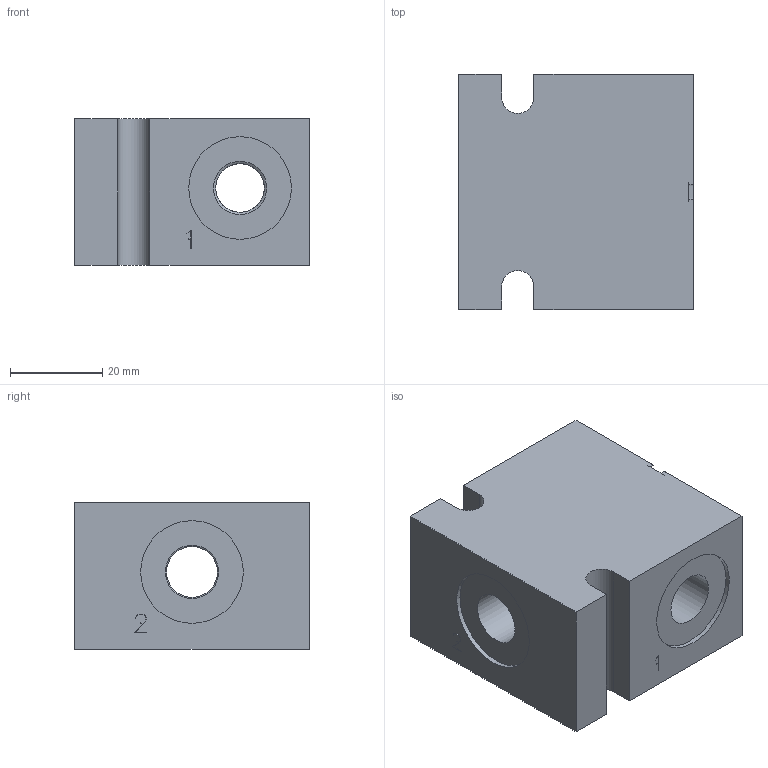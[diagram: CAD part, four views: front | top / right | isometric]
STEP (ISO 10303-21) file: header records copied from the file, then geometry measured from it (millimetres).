
FILE_DESCRIPTION( ( 'Unknown' ), '1' );
FILE_NAME( 'G:/Graphic Design/Graphic Design 2/Data Sheets/Delta Bodies/DRAWINGS/B-DPBA3.stp', 'Unknown', ( 'Unknown' ), ( 'Unknown' ), 'PSStep 16.0.42', 'Unknown', ' ' );
FILE_SCHEMA( ( 'AUTOMOTIVE_DESIGN { 1 0 10303 214 1 1 1 1 }' ) );
Length unit declared in the file: millimetre
Products named in the file (2): Assem1; B-DPBA3
Assembly tree (1 placements, depth 2):
  Assem1
    B-DPBA3
Bounding box: 50.8 x 50.8 x 31.75 mm (x, y, z)
Surface area: 15309.3 mm2 (no closed solid volume)
Topology: 0 solids, 96 shells, 96 faces, 473 edges, 449 vertices
Faces by surface type: plane 69, cylinder 21, cone 6
Full cylindrical faces by diameter (mm): 0.2 x3, 10.5 x2, 11 x1, 11.5 x6, 12.7 x1, 17.33 x2, 22.22 x3
Entity records: 5328 total; most frequent: CARTESIAN_POINT 1470, DIRECTION 516, ORIENTED_EDGE 434, EDGE_CURVE 434, VERTEX_POINT 434, B_SPLINE_CURVE_WITH_KNOTS 192, AXIS2_PLACEMENT_3D 176, LINE 164
